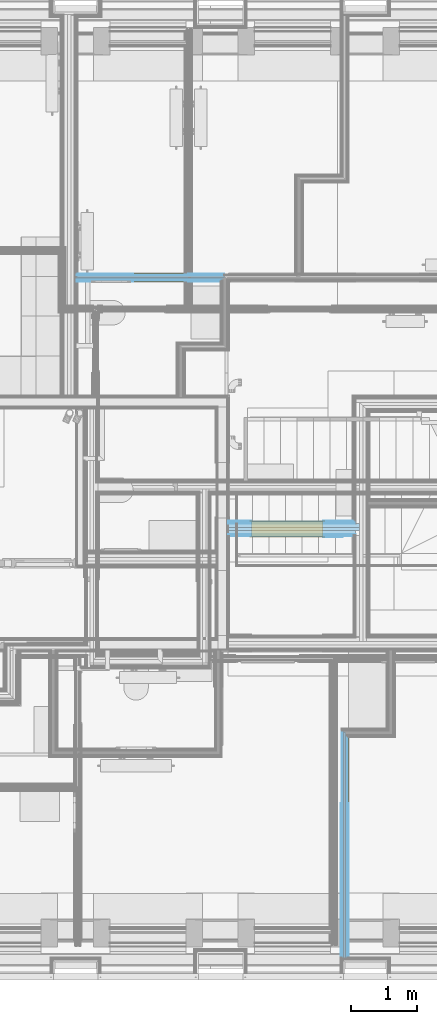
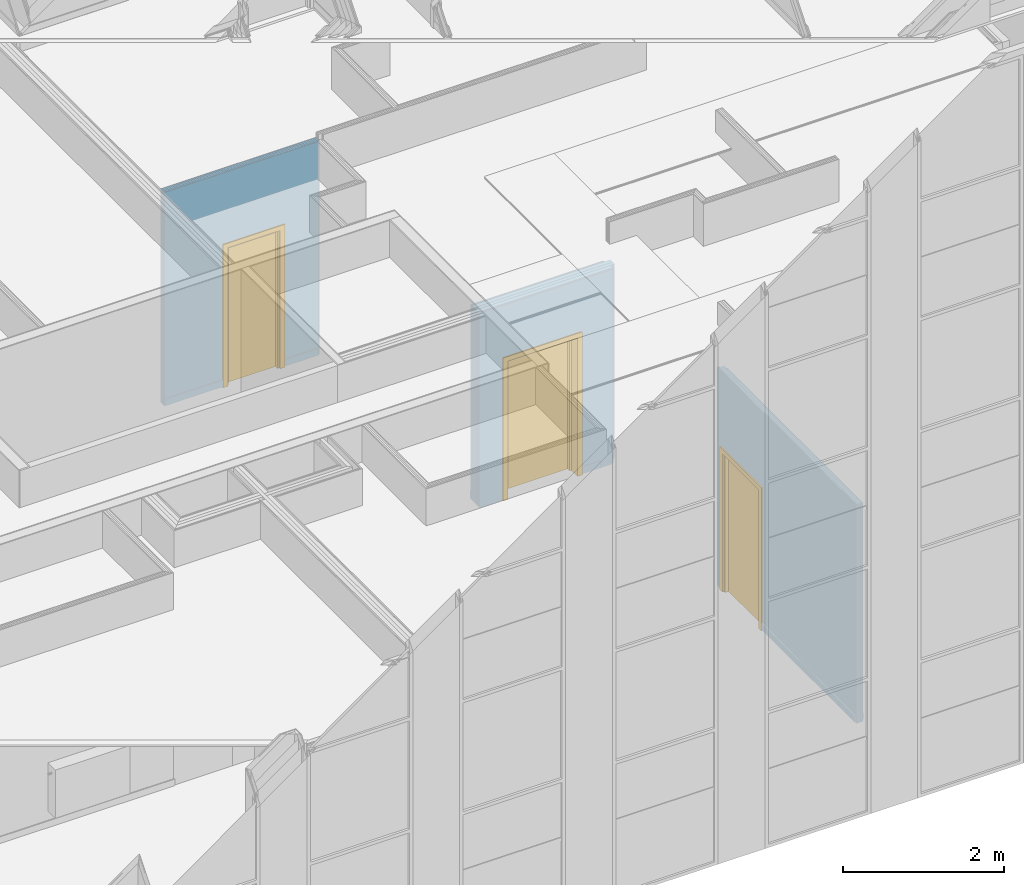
# One storey, part 89 of 169: 3 doors, 4 openings, 3 elements without a shape of their own, plus 23 elements that do not belong to this part.
"""IFC2X3 building model written with IfcOpenShell, lengths in metres."""

from ifc_helpers import new_model, entity, si_unit, converted_unit, derived_unit, money_unit, direction, frame, frame_2d, origin_with_axes, place, context, subcontext, project, spatial, polyline, rectangle, outline, extrude, faceted_brep, material, type_object, element, fill, aggregate, save


model = new_model("IFC2X3")

# Units and contexts
model_context = context("Model", 3, precision=1e-05, world=origin_with_axes(), true_north=direction((0.0, 1.0)))
body_context = subcontext(model_context, "Body", "Model", "MODEL_VIEW", scale=1.0)
ifc_project = project(units=[si_unit("LENGTHUNIT", "METRE"), si_unit("AREAUNIT", "SQUARE_METRE"), si_unit("VOLUMEUNIT", "CUBIC_METRE"), si_unit("ABSORBEDDOSEUNIT", "GRAY"), si_unit("AMOUNTOFSUBSTANCEUNIT", "MOLE"), si_unit("DOSEEQUIVALENTUNIT", "SIEVERT"), si_unit("ELECTRICCAPACITANCEUNIT", "FARAD"), si_unit("ELECTRICCHARGEUNIT", "COULOMB"), si_unit("ELECTRICCONDUCTANCEUNIT", "SIEMENS"), si_unit("ELECTRICCURRENTUNIT", "AMPERE"), si_unit("ELECTRICRESISTANCEUNIT", "OHM"), si_unit("ELECTRICVOLTAGEUNIT", "VOLT"), si_unit("ENERGYUNIT", "JOULE"), si_unit("FORCEUNIT", "NEWTON"), si_unit("FREQUENCYUNIT", "HERTZ"), si_unit("ILLUMINANCEUNIT", "LUX"), si_unit("INDUCTANCEUNIT", "HENRY"), si_unit("LUMINOUSFLUXUNIT", "LUMEN"), si_unit("LUMINOUSINTENSITYUNIT", "CANDELA"), si_unit("MAGNETICFLUXDENSITYUNIT", "TESLA"), si_unit("MAGNETICFLUXUNIT", "WEBER"), si_unit("MASSUNIT", "GRAM"), converted_unit("PLANEANGLEUNIT", "degree", entity("IfcReal", 0.0174532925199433), si_unit("PLANEANGLEUNIT", "RADIAN"), dimensions=[0, 0, 0, 0, 0, 0, 0]), si_unit("POWERUNIT", "WATT"), si_unit("PRESSUREUNIT", "PASCAL"), si_unit("RADIOACTIVITYUNIT", "BECQUEREL"), si_unit("SOLIDANGLEUNIT", "STERADIAN"), si_unit("THERMODYNAMICTEMPERATUREUNIT", "KELVIN"), si_unit("TIMEUNIT", "SECOND"), derived_unit("ACCELERATIONUNIT", [(si_unit("LENGTHUNIT", "METRE"), 1), (si_unit("TIMEUNIT", "SECOND"), -2)]), derived_unit("ANGULARVELOCITYUNIT", [(converted_unit("PLANEANGLEUNIT", "degree", entity("IfcReal", 0.0174532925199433), si_unit("PLANEANGLEUNIT", "RADIAN"), dimensions=[0, 0, 0, 0, 0, 0, 0]), 1), (si_unit("TIMEUNIT", "SECOND"), -1)]), derived_unit("CURVATUREUNIT", [(converted_unit("PLANEANGLEUNIT", "degree", entity("IfcReal", 0.0174532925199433), si_unit("PLANEANGLEUNIT", "RADIAN"), dimensions=[0, 0, 0, 0, 0, 0, 0]), 1), (si_unit("LENGTHUNIT", "METRE"), -1)]), derived_unit("DYNAMICVISCOSITYUNIT", [(si_unit("PRESSUREUNIT", "PASCAL"), 1), (si_unit("TIMEUNIT", "SECOND"), 1)]), derived_unit("HEATFLUXDENSITYUNIT", [(si_unit("POWERUNIT", "WATT"), 1), (si_unit("LENGTHUNIT", "METRE"), -2)]), derived_unit("HEATINGVALUEUNIT", [(si_unit("ENERGYUNIT", "JOULE"), 1), (si_unit("MASSUNIT", "GRAM"), -1)]), derived_unit("INTEGERCOUNTRATEUNIT", [(si_unit("TIMEUNIT", "SECOND"), -1)]), derived_unit("IONCONCENTRATIONUNIT", [(si_unit("MASSUNIT", "GRAM"), 1), (si_unit("VOLUMEUNIT", "CUBIC_METRE"), -1)]), derived_unit("ISOTHERMALMOISTURECAPACITYUNIT", [(si_unit("VOLUMEUNIT", "CUBIC_METRE"), 1), (si_unit("MASSUNIT", "GRAM"), -1)]), derived_unit("KINEMATICVISCOSITYUNIT", [(si_unit("AREAUNIT", "SQUARE_METRE"), 1), (si_unit("TIMEUNIT", "SECOND"), -1)]), derived_unit("LINEARFORCEUNIT", [(si_unit("FORCEUNIT", "NEWTON"), 1), (si_unit("LENGTHUNIT", "METRE"), -1)]), derived_unit("LINEARMOMENTUNIT", [(si_unit("FORCEUNIT", "NEWTON"), 1), (si_unit("LENGTHUNIT", "METRE"), -1)]), derived_unit("LINEARSTIFFNESSUNIT", [(si_unit("FORCEUNIT", "NEWTON"), 1), (si_unit("LENGTHUNIT", "METRE"), -1)]), derived_unit("LINEARVELOCITYUNIT", [(si_unit("LENGTHUNIT", "METRE"), 1), (si_unit("TIMEUNIT", "SECOND"), -1)]), derived_unit("LUMINOUSINTENSITYDISTRIBUTIONUNIT", [(si_unit("LUMINOUSINTENSITYUNIT", "CANDELA"), 1), (si_unit("LUMINOUSFLUXUNIT", "LUMEN"), -1)]), derived_unit("MASSDENSITYUNIT", [(si_unit("MASSUNIT", "GRAM"), 1), (si_unit("VOLUMEUNIT", "CUBIC_METRE"), -1)]), derived_unit("MASSFLOWRATEUNIT", [(si_unit("MASSUNIT", "GRAM"), 1), (si_unit("TIMEUNIT", "SECOND"), -1)]), derived_unit("MASSPERLENGTHUNIT", [(si_unit("MASSUNIT", "GRAM"), 1), (si_unit("LENGTHUNIT", "METRE"), -1)]), derived_unit("MODULUSOFELASTICITYUNIT", [(si_unit("FORCEUNIT", "NEWTON"), 1), (si_unit("AREAUNIT", "SQUARE_METRE"), -1)]), derived_unit("MODULUSOFLINEARSUBGRADEREACTIONUNIT", [(si_unit("FORCEUNIT", "NEWTON"), 1), (si_unit("LENGTHUNIT", "METRE"), -2)]), derived_unit("MODULUSOFROTATIONALSUBGRADEREACTIONUNIT", [(si_unit("FORCEUNIT", "NEWTON"), 1), (si_unit("LENGTHUNIT", "METRE"), 1)]), derived_unit("MODULUSOFSUBGRADEREACTIONUNIT", [(si_unit("FORCEUNIT", "NEWTON"), 1), (si_unit("VOLUMEUNIT", "CUBIC_METRE"), -1)]), derived_unit("MOISTUREDIFFUSIVITYUNIT", [(si_unit("VOLUMEUNIT", "CUBIC_METRE"), 1), (si_unit("TIMEUNIT", "SECOND"), -1)]), derived_unit("MOLECULARWEIGHTUNIT", [(si_unit("MASSUNIT", "GRAM"), 1), (si_unit("AMOUNTOFSUBSTANCEUNIT", "MOLE"), -1)]), derived_unit("PLANARFORCEUNIT", [(si_unit("FORCEUNIT", "NEWTON"), 1), (si_unit("LENGTHUNIT", "METRE"), -2)]), derived_unit("ROTATIONALFREQUENCYUNIT", [(si_unit("TIMEUNIT", "SECOND"), -1)]), derived_unit("ROTATIONALMASSUNIT", [(si_unit("MASSUNIT", "GRAM"), 1), (si_unit("LENGTHUNIT", "METRE"), 2)]), derived_unit("ROTATIONALSTIFFNESSUNIT", [(si_unit("FORCEUNIT", "NEWTON"), 1), (si_unit("LENGTHUNIT", "METRE"), 1), (converted_unit("PLANEANGLEUNIT", "degree", entity("IfcReal", 0.0174532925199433), si_unit("PLANEANGLEUNIT", "RADIAN"), dimensions=[0, 0, 0, 0, 0, 0, 0]), -1)]), derived_unit("SECTIONAREAINTEGRALUNIT", [(si_unit("LENGTHUNIT", "METRE"), 5)]), derived_unit("SECTIONMODULUSUNIT", [(si_unit("LENGTHUNIT", "METRE"), 3)]), derived_unit("SHEARMODULUSUNIT", [(si_unit("FORCEUNIT", "NEWTON"), 1), (si_unit("AREAUNIT", "SQUARE_METRE"), -1)]), derived_unit("SOUNDPOWERUNIT", [(si_unit("ENERGYUNIT", "JOULE"), 1), (si_unit("TIMEUNIT", "SECOND"), -1)]), derived_unit("SPECIFICHEATCAPACITYUNIT", [(si_unit("FORCEUNIT", "NEWTON"), 1), (si_unit("MASSUNIT", "GRAM"), -1), (si_unit("THERMODYNAMICTEMPERATUREUNIT", "KELVIN"), -1)]), derived_unit("TEMPERATUREGRADIENTUNIT", [(si_unit("THERMODYNAMICTEMPERATUREUNIT", "KELVIN"), 1), (si_unit("LENGTHUNIT", "METRE"), -1)]), derived_unit("THERMALADMITTANCEUNIT", [(si_unit("POWERUNIT", "WATT"), 1), (si_unit("AREAUNIT", "SQUARE_METRE"), -1), (si_unit("THERMODYNAMICTEMPERATUREUNIT", "KELVIN"), -1)]), derived_unit("THERMALCONDUCTANCEUNIT", [(si_unit("POWERUNIT", "WATT"), 1), (si_unit("LENGTHUNIT", "METRE"), -1), (si_unit("THERMODYNAMICTEMPERATUREUNIT", "KELVIN"), -1)]), derived_unit("THERMALEXPANSIONCOEFFICIENTUNIT", [(si_unit("THERMODYNAMICTEMPERATUREUNIT", "KELVIN"), -1)]), derived_unit("THERMALRESISTANCEUNIT", [(si_unit("AREAUNIT", "SQUARE_METRE"), 1), (si_unit("POWERUNIT", "WATT"), -1)]), derived_unit("THERMALTRANSMITTANCEUNIT", [(si_unit("POWERUNIT", "WATT"), 1), (si_unit("AREAUNIT", "SQUARE_METRE"), -1), (si_unit("THERMODYNAMICTEMPERATUREUNIT", "KELVIN"), -1)]), derived_unit("TORQUEUNIT", [(si_unit("FORCEUNIT", "NEWTON"), 1), (si_unit("LENGTHUNIT", "METRE"), 1)]), derived_unit("VAPORPERMEABILITYUNIT", [(si_unit("MASSUNIT", "GRAM"), 1), (si_unit("TIMEUNIT", "SECOND"), -1)]), derived_unit("VOLUMETRICFLOWRATEUNIT", [(si_unit("VOLUMEUNIT", "CUBIC_METRE"), 1), (si_unit("TIMEUNIT", "SECOND"), -1)]), derived_unit("WARPINGCONSTANTUNIT", [(si_unit("LENGTHUNIT", "METRE"), 6)]), derived_unit("WARPINGMOMENTUNIT", [(si_unit("FORCEUNIT", "NEWTON"), 1), (si_unit("LENGTHUNIT", "METRE"), 2)]), money_unit("GBP")], contexts=[model_context])

# Site, building, storey, space
site_placement = place(None, origin_with_axes())
site = spatial("IfcSite", under=ifc_project, at=site_placement, Name="Site", CompositionType="ELEMENT")
building_placement = place(site_placement, origin_with_axes())
building = spatial("IfcBuilding", under=site, at=building_placement, Name="Building01", CompositionType="ELEMENT")
storey_placement = place(building_placement, frame((0.0, 0.0, 5.15), z_axis=(0.0, 0.0, 1.0), x_axis=(1.0, 0.0, 0.0)))
storey = spatial("IfcBuildingStorey", under=building, at=storey_placement, Name="1F", CompositionType="ELEMENT", Elevation=5.15)
space_1_placement = place(storey_placement, frame((15.83, 8.82, 0.017975), z_axis=(0.0, 0.0, 1.0), x_axis=(0.0, -1.0, 0.0)))
space_1 = spatial("IfcSpace", under=storey, at=space_1_placement, Name="02", CompositionType="ELEMENT", InteriorOrExteriorSpace="NOTDEFINED")

# Door
ifc_material_1 = material(Name="A_BSUK_Doors")
door_style_1 = type_object("IfcDoorStyle", Name="A-Doors-SingleFlush", ConstructionType="USERDEFINED", OperationType="SINGLE_SWING_RIGHT", ParameterTakesPrecedence=False, Sizeable=False)
wall_3_placement = place(storey_placement, frame((18.0, 6.793, 0.0), z_axis=(0.0, 0.0, 1.0), x_axis=(1.0, 0.0, 0.0)))
opening_4_placement = place(wall_3_placement, frame((0.353, -0.103, -0.03), z_axis=(0.0, 0.0, 1.0), x_axis=(1.0, 0.0, 0.0)))
door_1_placement = place(opening_4_placement, frame((0.039, 0.24, 0.03), z_axis=(0.0, 0.0, 1.0), x_axis=(1.0, 0.0, 0.0)))
door_1 = element("IfcDoor", 1, at=door_1_placement, inside=space_1, type_object=door_style_1, material=ifc_material_1, Name="1.09", ObjectType="A-Doors-SingleFlush", OverallHeight=2.172, OverallWidth=1.08700000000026, context=body_context, shape_type="Brep", body=[
    faceted_brep([(1.0, -0.244, 0.0), (1.069, -0.244, 0.0), (1.069, -0.244, 2.169), (-0.069, -0.244, 2.169), (-0.069, -0.244, 0.0), (0.0, -0.244, 0.0), (0.0, -0.244, 2.1), (1.0, -0.244, 2.1), (-0.069, -0.225, 0.0), (-0.069, -0.225, 2.169), (1.069, -0.225, 2.169), (1.069, -0.225, 0.0), (1.0, 0.019, 0.0), (1.069, 0.019, 0.0), (1.069, 0.0, 0.0), (1.042, 0.0, 0.0), (1.042, -0.225, 0.0), (1.0, 0.019, 2.1), (0.0, 0.019, 2.1), (0.0, 0.019, 0.0), (-0.069, 0.019, 0.0), (-0.069, 0.019, 2.169), (1.069, 0.019, 2.169), (1.069, 0.0, 2.169), (1.042, -0.225, 2.142), (1.042, 0.0, 2.142), (-0.042, -0.225, 2.142), (-0.042, 0.0, 2.142), (-0.042, -0.225, 0.0), (-0.042, 0.0, 0.0), (-0.069, 0.0, 2.169), (-0.069, 0.0, 0.0)], [[[0, 1, 2, 3, 4, 5, 6, 7]], [[8, 4, 3, 9]], [[10, 2, 1, 11]], [[9, 3, 2, 10]], [[12, 13, 14, 15, 16, 11, 1, 0]], [[7, 17, 12, 0]], [[6, 18, 17, 7]], [[18, 19, 20, 21, 22, 13, 12, 17]], [[5, 19, 18, 6]], [[13, 22, 23, 14]], [[24, 16, 15, 25]], [[26, 24, 25, 27]], [[11, 16, 24, 26, 28, 8, 9, 10]], [[27, 29, 28, 26]], [[25, 15, 14, 23, 30, 31, 29, 27]], [[5, 4, 8, 28, 29, 31, 20, 19]], [[30, 21, 20, 31]], [[23, 22, 21, 30]]]),
    faceted_brep([(0.0, -0.09, 2.1), (0.0, -0.04, 2.1), (0.0, -0.04, 0.0), (0.0, -0.09, 0.0), (0.975, -0.09, 0.0), (1.0, -0.09, 0.0), (1.0, -0.09, 2.1), (0.025, -0.09, 0.0), (0.025, -0.09, 2.075), (0.975, -0.09, 2.075), (0.975, -0.04, 0.0), (1.0, -0.04, 0.0), (1.0, -0.04, 2.1), (0.025, -0.04, 2.075), (0.025, -0.04, 0.0), (0.975, -0.04, 2.075)], [[[0, 1, 2, 3]], [[4, 5, 6, 0, 3, 7, 8, 9]], [[10, 11, 5, 4]], [[6, 12, 1, 0]], [[5, 11, 12, 6]], [[13, 14, 2, 1, 12, 11, 10, 15]], [[7, 14, 13, 8]], [[7, 3, 2, 14]], [[9, 15, 10, 4]], [[8, 13, 15, 9]]]),
    faceted_brep([(1.0, -0.04, 0.0), (1.0, 0.0, 0.0), (1.0, 0.0, 2.1), (1.0, -0.04, 2.1), (0.0, -0.04, 2.1), (0.0, 0.0, 2.1), (0.0, 0.0, 0.0), (0.0, -0.04, 0.0)], [[[0, 1, 2, 3]], [[4, 5, 6, 7]], [[7, 6, 1, 0]], [[3, 4, 7, 0]], [[3, 2, 5, 4]], [[1, 6, 5, 2]]]),
])

# Space
space_2_placement = place(storey_placement, frame((14.85, 4.98, 0.017975), z_axis=(0.0, 0.0, 1.0), x_axis=(0.0, -1.0, 0.0)))
space_2 = spatial("IfcSpace", under=storey, at=space_2_placement, Name="04", CompositionType="ELEMENT", InteriorOrExteriorSpace="NOTDEFINED")

# Door
door_style_2 = type_object("IfcDoorStyle", Name="A-Doors-SingleFlush", ConstructionType="USERDEFINED", OperationType="SINGLE_SWING_LEFT", ParameterTakesPrecedence=False, Sizeable=False)
wall_1_placement = place(storey_placement, frame((19.75, 3.745, 0.0), z_axis=(0.0, 0.0, 1.0), x_axis=(0.0, -1.0, 0.0)))
opening_2_placement = place(wall_1_placement, frame((0.099, -0.05, 0.0), z_axis=(0.0, 0.0, 1.0), x_axis=(1.0, 0.0, 0.0)))
door_2_placement = place(opening_2_placement, frame((0.03, 0.11, 0.0), z_axis=(0.0, 0.0, 1.0), x_axis=(1.0, 0.0, 0.0)))
door_2 = element("IfcDoor", 2, at=door_2_placement, inside=space_2, type_object=door_style_2, material=ifc_material_1, Name="1.14", ObjectType="A-Doors-SingleFlush", OverallHeight=2.157, OverallWidth=1.56178056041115, context=body_context, shape_type="Brep", body=[
    faceted_brep([(0.0, -0.114, 2.1), (0.9, -0.114, 2.1), (0.9, -0.114, 0.0), (0.969, -0.114, 0.0), (0.969, -0.114, 2.169), (-0.069, -0.114, 2.169), (-0.069, -0.114, 0.0), (0.0, -0.114, 0.0), (0.969, -0.095, 2.169), (0.969, -0.095, 0.0), (-0.069, -0.095, 0.0), (-0.069, -0.095, 2.169), (-0.042, -0.095, 0.0), (-0.042, 0.0, 0.0), (-0.069, 0.0, 0.0), (-0.069, 0.019, 0.0), (0.0, 0.019, 0.0), (0.0, 0.019, 2.1), (0.9, 0.019, 2.1), (-0.069, 0.019, 2.169), (0.969, 0.019, 2.169), (0.969, 0.019, 0.0), (0.9, 0.019, 0.0), (-0.069, 0.0, 2.169), (-0.042, 0.0, 2.142), (-0.042, -0.095, 2.142), (0.942, 0.0, 2.142), (0.942, -0.095, 2.142), (0.942, -0.095, 0.0), (0.942, 0.0, 0.0), (0.969, 0.0, 0.0), (0.969, 0.0, 2.169)], [[[0, 1, 2, 3, 4, 5, 6, 7]], [[8, 4, 3, 9]], [[10, 6, 5, 11]], [[11, 5, 4, 8]], [[7, 6, 10, 12, 13, 14, 15, 16]], [[7, 16, 17, 0]], [[0, 17, 18, 1]], [[17, 16, 15, 19, 20, 21, 22, 18]], [[1, 18, 22, 2]], [[14, 23, 19, 15]], [[24, 13, 12, 25]], [[26, 24, 25, 27]], [[11, 8, 9, 28, 27, 25, 12, 10]], [[27, 28, 29, 26]], [[26, 29, 30, 31, 23, 14, 13, 24]], [[22, 21, 30, 29, 28, 9, 3, 2]], [[30, 21, 20, 31]], [[31, 20, 19, 23]]]),
    faceted_brep([(0.9, -0.09, 0.0), (0.9, -0.04, 0.0), (0.9, -0.04, 2.1), (0.9, -0.09, 2.1), (0.025, -0.09, 2.075), (0.875, -0.09, 2.075), (0.875, -0.09, 0.0), (0.0, -0.09, 2.1), (0.0, -0.09, 0.0), (0.025, -0.09, 0.0), (0.0, -0.04, 0.0), (0.025, -0.04, 0.0), (0.0, -0.04, 2.1), (0.025, -0.04, 2.075), (0.875, -0.04, 0.0), (0.875, -0.04, 2.075)], [[[0, 1, 2, 3]], [[4, 5, 6, 0, 3, 7, 8, 9]], [[9, 8, 10, 11]], [[3, 2, 12, 7]], [[7, 12, 10, 8]], [[13, 11, 10, 12, 2, 1, 14, 15]], [[5, 15, 14, 6]], [[14, 1, 0, 6]], [[9, 11, 13, 4]], [[4, 13, 15, 5]]]),
    faceted_brep([(0.0, -0.04, 2.1), (0.0, 0.0, 2.1), (0.0, 0.0, 0.0), (0.0, -0.04, 0.0), (0.9, -0.04, 0.0), (0.9, 0.0, 0.0), (0.9, 0.0, 2.1), (0.9, -0.04, 2.1)], [[[0, 1, 2, 3]], [[4, 5, 6, 7]], [[3, 2, 5, 4]], [[3, 4, 7, 0]], [[7, 6, 1, 0]], [[1, 6, 5, 2]]]),
])

wall_2_placement = place(storey_placement, frame((17.94, 10.63, 0.0), z_axis=(0.0, 0.0, 1.0), x_axis=(-1.0, 0.0, 0.0)))
opening_3_placement = place(wall_2_placement, frame((0.540552, -0.05, 0.0), z_axis=(0.0, 0.0, 1.0), x_axis=(1.0, 0.0, 0.0)))
door_3_placement = place(opening_3_placement, frame((0.792, 0.015, 0.0), z_axis=(0.0, 0.0, 1.0), x_axis=(-1.0, 0.0, 0.0)))
door_3 = element("IfcDoor", 3, at=door_3_placement, inside=space_1, type_object=door_style_2, material=ifc_material_1, Name="1.05", ObjectType="A-Doors-SingleFlush", OverallHeight=2.142, OverallWidth=0.834000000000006, context=body_context, shape_type="Brep", body=[
    faceted_brep([(0.0, -0.114, 2.1), (0.75, -0.114, 2.1), (0.75, -0.114, 0.0), (0.819, -0.114, 0.0), (0.819, -0.114, 2.169), (-0.069, -0.114, 2.169), (-0.069, -0.114, 0.0), (0.0, -0.114, 0.0), (0.819, -0.095, 2.169), (0.819, -0.095, 0.0), (-0.069, -0.095, 0.0), (-0.069, -0.095, 2.169), (-0.042, -0.095, 0.0), (-0.042, 0.0, 0.0), (-0.069, 0.0, 0.0), (-0.069, 0.019, 0.0), (0.0, 0.019, 0.0), (0.0, 0.019, 2.1), (0.75, 0.019, 2.1), (-0.069, 0.019, 2.169), (0.819, 0.019, 2.169), (0.819, 0.019, 0.0), (0.75, 0.019, 0.0), (-0.069, 0.0, 2.169), (-0.042, 0.0, 2.142), (-0.042, -0.095, 2.142), (0.792, 0.0, 2.142), (0.792, -0.095, 2.142), (0.792, -0.095, 0.0), (0.792, 0.0, 0.0), (0.819, 0.0, 0.0), (0.819, 0.0, 2.169)], [[[0, 1, 2, 3, 4, 5, 6, 7]], [[8, 4, 3, 9]], [[10, 6, 5, 11]], [[11, 5, 4, 8]], [[7, 6, 10, 12, 13, 14, 15, 16]], [[7, 16, 17, 0]], [[0, 17, 18, 1]], [[17, 16, 15, 19, 20, 21, 22, 18]], [[1, 18, 22, 2]], [[14, 23, 19, 15]], [[24, 13, 12, 25]], [[26, 24, 25, 27]], [[11, 8, 9, 28, 27, 25, 12, 10]], [[27, 28, 29, 26]], [[26, 29, 30, 31, 23, 14, 13, 24]], [[22, 21, 30, 29, 28, 9, 3, 2]], [[30, 21, 20, 31]], [[31, 20, 19, 23]]]),
    faceted_brep([(0.75, -0.09, 0.0), (0.75, -0.04, 0.0), (0.75, -0.04, 2.1), (0.75, -0.09, 2.1), (0.025, -0.09, 2.075), (0.725, -0.09, 2.075), (0.725, -0.09, 0.0), (0.0, -0.09, 2.1), (0.0, -0.09, 0.0), (0.025, -0.09, 0.0), (0.0, -0.04, 0.0), (0.025, -0.04, 0.0), (0.0, -0.04, 2.1), (0.025, -0.04, 2.075), (0.725, -0.04, 0.0), (0.725, -0.04, 2.075)], [[[0, 1, 2, 3]], [[4, 5, 6, 0, 3, 7, 8, 9]], [[9, 8, 10, 11]], [[3, 2, 12, 7]], [[7, 12, 10, 8]], [[13, 11, 10, 12, 2, 1, 14, 15]], [[5, 15, 14, 6]], [[14, 1, 0, 6]], [[9, 11, 13, 4]], [[4, 13, 15, 5]]]),
    faceted_brep([(0.0, -0.04, 2.1), (0.0, 0.0, 2.1), (0.0, 0.0, 0.0), (0.0, -0.04, 0.0), (0.75, -0.04, 0.0), (0.75, 0.0, 0.0), (0.75, 0.0, 2.1), (0.75, -0.04, 2.1)], [[[0, 1, 2, 3]], [[4, 5, 6, 7]], [[3, 2, 5, 4]], [[3, 4, 7, 0]], [[7, 6, 1, 0]], [[1, 6, 5, 2]]]),
])

# Wall, openings
wall_type_1 = type_object("IfcWallType", Name="SHE_A-Walls_Type05a_Partition_95mm_tall", PredefinedType="NOTDEFINED")
wall_1 = element("IfcWall", 4, at=wall_1_placement, inside=storey, type_object=wall_type_1, Name="5A", ObjectType="SHE_A-Walls_Type05a_Partition_95mm_tall")
opening_1_placement = place(wall_1_placement, frame((0.087, -0.035, 0.0), z_axis=(0.0, 0.0, 1.0), x_axis=(1.0, 0.0, 0.0)))
element("IfcOpeningElement", 5, at=opening_1_placement, cuts=wall_1, Name="Opening", ObjectType="Recess", context=body_context, shape_type="SweptSolid", body=[
    extrude(rectangle(XDim=2.142, YDim=0.984, at=frame_2d((-0.492, 1.071), x_axis=(0.0, 1.0))), frame((0.0, 0.0, 0.0), z_axis=(0.0, 1.0, 0.0), x_axis=(-1.0, 0.0, 0.0)), (0.0, 0.0, 1.0), 0.035),
])
opening_2 = element("IfcOpeningElement", 6, at=opening_2_placement, cuts=wall_1, Name="Opening", ObjectType="Opening", context=body_context, shape_type="SweptSolid", body=[
    extrude(rectangle(XDim=0.9, YDim=2.127, at=frame_2d((-0.45, 1.0635), x_axis=(-1.0, 0.0))), frame((0.0, 0.0, 0.0), z_axis=(0.0, 1.0, 0.0), x_axis=(-1.0, 0.0, 0.0)), (0.0, 0.0, 1.0), 0.125),
    extrude(rectangle(XDim=0.9, YDim=2.142, at=frame_2d((-0.45, 1.056), x_axis=(-1.0, 0.0))), frame((0.0, 0.015, 0.0), z_axis=(0.0, 1.0, 0.0), x_axis=(-1.0, 0.0, 0.0)), (0.0, 0.0, 1.0), 0.012),
    extrude(rectangle(XDim=2.142, YDim=0.984, at=frame_2d((-0.48, 1.071), x_axis=(0.0, -1.0))), frame((0.0, 0.0, 0.0), z_axis=(0.0, 1.0, 0.0), x_axis=(-1.0, 0.0, 0.0)), (0.0, 0.0, 1.0), 0.015),
    extrude(rectangle(XDim=0.9, YDim=2.142, at=frame_2d((-0.45, 1.056), x_axis=(-1.0, 0.0))), frame((0.0, 0.027, 0.0), z_axis=(0.0, 1.0, 0.0), x_axis=(-1.0, 0.0, 0.0)), (0.0, 0.0, 1.0), 0.023),
    extrude(outline(polyline([(0.012, 2.127), (0.012, 2.142), (-0.972, 2.142), (-0.972, 0.0), (-0.494219, 0.0), (-0.494219, -0.015), (0.589781, -0.015), (0.589781, 2.127), (0.012, 2.127)])), frame((0.0, 0.05, 0.0), z_axis=(0.0, 1.0, 0.0), x_axis=(-1.0, 0.0, 0.0)), (0.0, 0.0, 1.0), 0.025),
    extrude(outline(polyline([(0.012, 2.127), (0.012, 2.142), (-0.972, 2.142), (-0.972, 0.0), (-0.494219, 0.0), (-0.494219, -0.015), (0.589781, -0.015), (0.589781, 2.127), (0.012, 2.127)])), frame((0.0, 0.075, 0.0), z_axis=(0.0, 1.0, 0.0), x_axis=(-1.0, 0.0, 0.0)), (0.0, 0.0, 1.0), 0.023),
    extrude(outline(polyline([(-0.972, 2.142), (-0.972, 0.0), (-0.9, 0.0), (-0.9, -0.015), (0.0, -0.015), (0.0, 0.0), (0.589781, 0.0), (0.589781, 2.142), (-0.972, 2.142)])), frame((0.0, 0.098, 0.0), z_axis=(0.0, 1.0, 0.0), x_axis=(-1.0, 0.0, 0.0)), (0.0, 0.0, 1.0), 0.012),
    extrude(rectangle(XDim=2.142, YDim=0.984, at=frame_2d((-0.48, 1.071), x_axis=(0.0, -1.0))), frame((0.0, 0.11, 0.0), z_axis=(0.0, 1.0, 0.0), x_axis=(-1.0, 0.0, 0.0)), (0.0, 0.0, 1.0), 0.015),
])

fill(opening_2, door_2)

# Building element part
ifc_material_2 = material(Name="A_BSUK_Walls_Timber")
placement_1 = place(wall_1_placement, origin_with_axes())
building_element_part_1 = element("IfcBuildingElementPart", 7, at=placement_1, material=ifc_material_2, Name="1", context=body_context, shape_type="SweptSolid", body=[
    extrude(rectangle(XDim=2.344, YDim=0.015, at=frame_2d((2.24, -0.0425), x_axis=(-1.0, 0.0))), frame((0.0, 0.0, 0.015), z_axis=(0.0, 0.0, 1.0), x_axis=(1.0, 0.0, 0.0)), (0.0, 0.0, 1.0), 0.1),
])

ifc_material_3 = material(Name="A_BSUK_WallInternal_Finishes_Plasterboard")
building_element_part_2 = element("IfcBuildingElementPart", 8, at=placement_1, material=ifc_material_3, Name="2", context=body_context, shape_type="SweptSolid", body=[
    extrude(outline(polyline([(3.427, -0.023), (-0.023, -0.023), (-0.035, -0.035), (3.427, -0.035), (3.427, -0.023)])), origin_with_axes(), (0.0, 0.0, 1.0), 3.32),
])

ifc_material_4 = material(Name="Air Cavity")
building_element_part_3 = element("IfcBuildingElementPart", 9, at=placement_1, material=ifc_material_4, Name="3", context=body_context, shape_type="SweptSolid", body=[
    extrude(outline(polyline([(3.427, 0.0), (0.0, 0.0), (-0.023, -0.023), (3.427, -0.023), (3.427, 0.0)])), origin_with_axes(), (0.0, 0.0, 1.0), 3.32),
])

ifc_material_5 = material(Name="A_BSUK_Insulation")
building_element_part_4 = element("IfcBuildingElementPart", 10, at=placement_1, material=ifc_material_5, Name="4", context=body_context, shape_type="SweptSolid", body=[
    extrude(rectangle(XDim=3.427, YDim=0.025, at=frame_2d((1.7135, 0.0125), x_axis=(-1.0, 0.0))), origin_with_axes(), (0.0, 0.0, 1.0), 3.32),
])

building_element_part_5 = element("IfcBuildingElementPart", 11, at=placement_1, material=ifc_material_4, Name="5", context=body_context, shape_type="SweptSolid", body=[
    extrude(rectangle(XDim=3.427, YDim=0.023, at=frame_2d((1.7135, 0.0365), x_axis=(-1.0, 0.0))), origin_with_axes(), (0.0, 0.0, 1.0), 3.32),
])

building_element_part_6 = element("IfcBuildingElementPart", 12, at=placement_1, material=ifc_material_3, Name="6", context=body_context, shape_type="SweptSolid", body=[
    extrude(outline(polyline([(3.427, 0.06), (0.06, 0.06), (0.048, 0.048), (3.427, 0.048), (3.427, 0.06)])), origin_with_axes(), (0.0, 0.0, 1.0), 3.32),
])

building_element_part_7 = element("IfcBuildingElementPart", 13, at=placement_1, material=ifc_material_2, Name="7", context=body_context, shape_type="SweptSolid", body=[
    extrude(rectangle(XDim=2.344, YDim=0.015, at=frame_2d((2.24, 0.0675), x_axis=(-1.0, 0.0))), frame((0.0, 0.0, 0.015), z_axis=(0.0, 0.0, 1.0), x_axis=(1.0, 0.0, 0.0)), (0.0, 0.0, 1.0), 0.1),
])

aggregate(wall_1, [building_element_part_1, building_element_part_2, building_element_part_3, building_element_part_4, building_element_part_5, building_element_part_6, building_element_part_7])

# Wall, opening
wall_2 = element("IfcWall", 14, at=wall_2_placement, inside=storey, type_object=wall_type_1, Name="5A", ObjectType="SHE_A-Walls_Type05a_Partition_95mm_tall")
opening_3 = element("IfcOpeningElement", 15, at=opening_3_placement, cuts=wall_2, Name="Opening", ObjectType="Opening", context=body_context, shape_type="SweptSolid", body=[
    extrude(rectangle(XDim=0.834, YDim=2.142, at=frame_2d((-0.417, 1.071), x_axis=(-1.0, 0.0))), frame((0.0, 0.0, 0.0), z_axis=(0.0, 1.0, 0.0), x_axis=(-1.0, 0.0, 0.0)), (0.0, 0.0, 1.0), 0.125),
])

fill(opening_3, door_3)

# Building element part
placement_2 = place(wall_2_placement, origin_with_axes())
building_element_part_8 = element("IfcBuildingElementPart", 16, at=placement_2, material=ifc_material_2, Name="1", context=body_context, shape_type="SweptSolid", body=[
    extrude(rectangle(XDim=2.216868, YDim=0.015, at=frame_2d((1.108434, -0.0425), x_axis=(-1.0, 0.0))), frame((0.0, 0.0, 0.015), z_axis=(0.0, 0.0, 1.0), x_axis=(1.0, 0.0, 0.0)), (0.0, 0.0, 1.0), 0.1),
])

building_element_part_9 = element("IfcBuildingElementPart", 17, at=placement_2, material=ifc_material_3, Name="2", context=body_context, shape_type="SweptSolid", body=[
    extrude(rectangle(XDim=2.231868, YDim=0.012, at=frame_2d((1.115934, -0.029), x_axis=(-1.0, 0.0))), origin_with_axes(), (0.0, 0.0, 1.0), 3.24),
])

building_element_part_10 = element("IfcBuildingElementPart", 18, at=placement_2, material=ifc_material_4, Name="3", context=body_context, shape_type="SweptSolid", body=[
    extrude(rectangle(XDim=2.231868, YDim=0.023, at=frame_2d((1.115934, -0.0115), x_axis=(-1.0, 0.0))), origin_with_axes(), (0.0, 0.0, 1.0), 3.24),
])

building_element_part_11 = element("IfcBuildingElementPart", 19, at=placement_2, material=ifc_material_5, Name="4", context=body_context, shape_type="SweptSolid", body=[
    extrude(rectangle(XDim=2.231868, YDim=0.025, at=frame_2d((1.115934, 0.0125), x_axis=(-1.0, 0.0))), origin_with_axes(), (0.0, 0.0, 1.0), 3.24),
])

building_element_part_12 = element("IfcBuildingElementPart", 20, at=placement_2, material=ifc_material_4, Name="5", context=body_context, shape_type="SweptSolid", body=[
    extrude(rectangle(XDim=2.231868, YDim=0.023, at=frame_2d((1.115934, 0.0365), x_axis=(-1.0, 0.0))), origin_with_axes(), (0.0, 0.0, 1.0), 3.24),
])

building_element_part_13 = element("IfcBuildingElementPart", 21, at=placement_2, material=ifc_material_3, Name="6", context=body_context, shape_type="SweptSolid", body=[
    extrude(rectangle(XDim=2.208868, YDim=0.012, at=frame_2d((1.127434, 0.054), x_axis=(-1.0, 0.0))), origin_with_axes(), (0.0, 0.0, 1.0), 3.24),
])

building_element_part_14 = element("IfcBuildingElementPart", 22, at=placement_2, material=ifc_material_2, Name="7", context=body_context, shape_type="SweptSolid", body=[
    extrude(rectangle(XDim=2.196868, YDim=0.015, at=frame_2d((1.133434, 0.0675), x_axis=(-1.0, 0.0))), frame((0.0, 0.0, 0.015), z_axis=(0.0, 0.0, 1.0), x_axis=(1.0, 0.0, 0.0)), (0.0, 0.0, 1.0), 0.1),
])

aggregate(wall_2, [building_element_part_8, building_element_part_9, building_element_part_10, building_element_part_11, building_element_part_12, building_element_part_13, building_element_part_14])

# Wall, opening
wall_type_2 = type_object("IfcWallType", Name="SHE_A-Walls_Type01c_Partywall_225mm_twin_tall", PredefinedType="NOTDEFINED")
wall_3 = element("IfcWall", 23, at=wall_3_placement, inside=storey, type_object=wall_type_2, Name="1C", ObjectType="SHE_A-Walls_Type01c_Partywall_225mm_twin_tall")
opening_4 = element("IfcOpeningElement", 24, at=opening_4_placement, cuts=wall_3, Name="Opening", ObjectType="Opening", context=body_context, shape_type="SweptSolid", body=[
    extrude(rectangle(XDim=2.142, YDim=1.081, at=frame_2d((-0.5405, 1.071), x_axis=(0.0, -1.0))), frame((0.0, 0.0, 0.0), z_axis=(0.0, 1.0, 0.0), x_axis=(-1.0, 0.0, 0.0)), (0.0, 0.0, 1.0), 0.255),
    extrude(rectangle(XDim=1.084, YDim=2.172, at=frame_2d((-0.539, 1.086), x_axis=(1.0, 0.0))), frame((0.0, 0.015, 0.0), z_axis=(0.0, 1.0, 0.0), x_axis=(-1.0, 0.0, 0.0)), (0.0, 0.0, 1.0), 0.015),
    extrude(rectangle(XDim=2.142, YDim=1.084, at=frame_2d((-0.542, 1.071), x_axis=(0.0, -1.0))), frame((0.0, 0.0, 0.0), z_axis=(0.0, 1.0, 0.0), x_axis=(-1.0, 0.0, 0.0)), (0.0, 0.0, 1.0), 0.015),
    extrude(outline(polyline([(0.0, 0.03), (0.003, 0.03), (0.003, 2.172), (-1.081, 2.172), (-1.081, 2.142), (-1.084, 2.142), (-1.084, 0.0), (0.0, 0.0), (0.0, 0.03)])), frame((0.0, 0.03, 0.0), z_axis=(0.0, 1.0, 0.0), x_axis=(-1.0, 0.0, 0.0)), (0.0, 0.0, 1.0), 0.015),
    extrude(outline(polyline([(0.0, 0.03), (0.003, 0.03), (0.003, 2.172), (-1.081, 2.172), (-1.081, 2.142), (-1.084, 2.142), (-1.084, 0.0), (0.0, 0.0), (0.0, 0.03)])), frame((0.0, 0.045, 0.0), z_axis=(0.0, 1.0, 0.0), x_axis=(-1.0, 0.0, 0.0)), (0.0, 0.0, 1.0), 0.058),
    extrude(outline(polyline([(0.0, 0.03), (0.003, 0.03), (0.003, 2.172), (-1.081, 2.172), (-1.081, 2.142), (-1.084, 2.142), (-1.084, 0.0), (0.0, 0.0), (0.0, 0.03)])), frame((0.0, 0.103, 0.0), z_axis=(0.0, 1.0, 0.0), x_axis=(-1.0, 0.0, 0.0)), (0.0, 0.0, 1.0), 0.05),
    extrude(outline(polyline([(0.0, 0.03), (0.003, 0.03), (0.003, 2.172), (-1.081, 2.172), (-1.081, 2.142), (-1.084, 2.142), (-1.084, 0.0), (0.0, 0.0), (0.0, 0.03)])), frame((0.0, 0.153, 0.0), z_axis=(0.0, 1.0, 0.0), x_axis=(-1.0, 0.0, 0.0)), (0.0, 0.0, 1.0), 0.057),
    extrude(outline(polyline([(0.0, 0.03), (0.003, 0.03), (0.003, 2.172), (-1.081, 2.172), (-1.081, 2.142), (-1.084, 2.142), (-1.084, 0.0), (0.0, 0.0), (0.0, 0.03)])), frame((0.0, 0.21, 0.0), z_axis=(0.0, 1.0, 0.0), x_axis=(-1.0, 0.0, 0.0)), (0.0, 0.0, 1.0), 0.015),
    extrude(rectangle(XDim=1.084, YDim=2.172, at=frame_2d((-0.539, 1.086), x_axis=(1.0, 0.0))), frame((0.0, 0.225, 0.0), z_axis=(0.0, 1.0, 0.0), x_axis=(-1.0, 0.0, 0.0)), (0.0, 0.0, 1.0), 0.015),
    extrude(outline(polyline([(0.0, 0.03), (0.003, 0.03), (0.003, 2.172), (-1.081, 2.172), (-1.081, 2.142), (-1.084, 2.142), (-1.084, 0.0), (0.0, 0.0), (0.0, 0.03)])), frame((0.0, 0.24, 0.0), z_axis=(0.0, 1.0, 0.0), x_axis=(-1.0, 0.0, 0.0)), (0.0, 0.0, 1.0), 0.015),
])

fill(opening_4, door_1)

# Building element part
placement_3 = place(wall_3_placement, origin_with_axes())
building_element_part_15 = element("IfcBuildingElementPart", 25, at=placement_3, material=ifc_material_2, Name="1", context=body_context, shape_type="SweptSolid", body=[
    extrude(rectangle(XDim=0.401969, YDim=0.015, at=frame_2d((1.529984, -0.0955), x_axis=(-1.0, 0.0))), frame((0.0, 0.0, 0.015), z_axis=(0.0, 0.0, 1.0), x_axis=(1.0, 0.0, 0.0)), (0.0, 0.0, 1.0), 0.1),
])

building_element_part_16 = element("IfcBuildingElementPart", 26, at=placement_3, material=ifc_material_3, Name="2", context=body_context, shape_type="SweptSolid", body=[
    extrude(rectangle(XDim=1.897661, YDim=0.015, at=frame_2d((0.948831, -0.0805), x_axis=(-1.0, 0.0))), origin_with_axes(), (0.0, 0.0, 1.0), 2.95),
])

building_element_part_17 = element("IfcBuildingElementPart", 27, at=placement_3, material=ifc_material_3, Name="3", context=body_context, shape_type="SweptSolid", body=[
    extrude(rectangle(XDim=1.927661, YDim=0.015, at=frame_2d((0.963831, -0.0655), x_axis=(-1.0, 0.0))), origin_with_axes(), (0.0, 0.0, 1.0), 2.95),
])

building_element_part_18 = element("IfcBuildingElementPart", 28, at=placement_3, material=ifc_material_4, Name="4", context=body_context, shape_type="SweptSolid", body=[
    extrude(rectangle(XDim=1.927661, YDim=0.058, at=frame_2d((0.963831, -0.029), x_axis=(-1.0, 0.0))), origin_with_axes(), (0.0, 0.0, 1.0), 2.95),
])

building_element_part_19 = element("IfcBuildingElementPart", 29, at=placement_3, material=ifc_material_5, Name="5", context=body_context, shape_type="SweptSolid", body=[
    extrude(rectangle(XDim=1.985661, YDim=0.05, at=frame_2d((0.992831, 0.025), x_axis=(-1.0, 0.0))), origin_with_axes(), (0.0, 0.0, 1.0), 2.95),
])

building_element_part_20 = element("IfcBuildingElementPart", 30, at=placement_3, material=ifc_material_4, Name="6", context=body_context, shape_type="SweptSolid", body=[
    extrude(rectangle(XDim=1.985661, YDim=0.057, at=frame_2d((0.992831, 0.0785), x_axis=(-1.0, 0.0))), origin_with_axes(), (0.0, 0.0, 1.0), 2.95),
])

building_element_part_21 = element("IfcBuildingElementPart", 31, at=placement_3, material=ifc_material_3, Name="7", context=body_context, shape_type="SweptSolid", body=[
    extrude(rectangle(XDim=1.912661, YDim=0.015, at=frame_2d((0.956331, 0.1145), x_axis=(-1.0, 0.0))), origin_with_axes(), (0.0, 0.0, 1.0), 2.95),
])

building_element_part_22 = element("IfcBuildingElementPart", 32, at=placement_3, material=ifc_material_3, Name="8", context=body_context, shape_type="SweptSolid", body=[
    extrude(rectangle(XDim=1.897661, YDim=0.015, at=frame_2d((0.948831, 0.1295), x_axis=(-1.0, 0.0))), origin_with_axes(), (0.0, 0.0, 1.0), 2.95),
])

building_element_part_23 = element("IfcBuildingElementPart", 33, at=placement_3, material=ifc_material_2, Name="9", context=body_context, shape_type="SweptSolid", body=[
    extrude(rectangle(XDim=1.882661, YDim=0.015, at=frame_2d((0.941331, 0.1445), x_axis=(-1.0, 0.0))), frame((0.0, 0.0, 0.015), z_axis=(0.0, 0.0, 1.0), x_axis=(1.0, 0.0, 0.0)), (0.0, 0.0, 1.0), 0.1),
])

aggregate(wall_3, [building_element_part_15, building_element_part_16, building_element_part_17, building_element_part_18, building_element_part_19, building_element_part_20, building_element_part_21, building_element_part_22, building_element_part_23])

save(model, "model.ifc")
